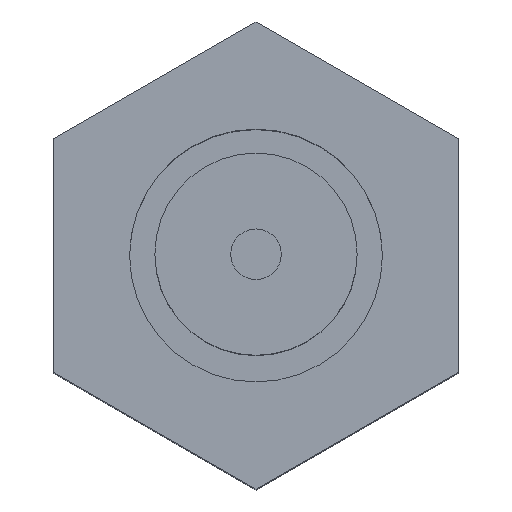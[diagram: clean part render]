
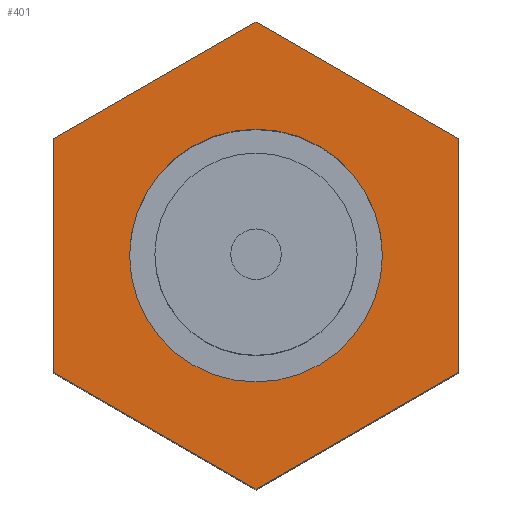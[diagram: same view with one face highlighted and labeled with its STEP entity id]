
A CAD part, top view. The second image highlights one B-rep face of the part: STEP entity #401.
In plain terms, the highlighted planar face has unit normal (0, 0, 1) as drawn and (-1, 0, 0) by its records, which use the part's own axes.
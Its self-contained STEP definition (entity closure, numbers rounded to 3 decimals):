
#291 = VERTEX_POINT ( 'NONE', #744 ) ;
#293 = VERTEX_POINT ( 'NONE', #748 ) ;
#294 = EDGE_CURVE ( 'NONE', #293, #291, #758, .T. ) ;
#385 = EDGE_CURVE ( 'NONE', #414, #412, #541, .T. ) ;
#386 = ORIENTED_EDGE ( 'NONE', *, *, #387, .F. ) ;
#387 = EDGE_CURVE ( 'NONE', #388, #414, #537, .T. ) ;
#388 = VERTEX_POINT ( 'NONE', #533 ) ;
#389 = ORIENTED_EDGE ( 'NONE', *, *, #390, .F. ) ;
#390 = EDGE_CURVE ( 'NONE', #406, #388, #532, .T. ) ;
#391 = EDGE_LOOP ( 'NONE', ( #392, #393 ) ) ;
#392 = ORIENTED_EDGE ( 'NONE', *, *, #294, .T. ) ;
#393 = ORIENTED_EDGE ( 'NONE', *, *, #394, .T. ) ;
#394 = EDGE_CURVE ( 'NONE', #291, #293, #528, .T. ) ;
#401 = ADVANCED_FACE ( 'NONE', ( #512, #511 ), #573, .T. ) ;
#402 = EDGE_LOOP ( 'NONE', ( #403, #407, #410, #413, #386, #389 ) ) ;
#403 = ORIENTED_EDGE ( 'NONE', *, *, #404, .F. ) ;
#404 = EDGE_CURVE ( 'NONE', #405, #406, #568, .T. ) ;
#405 = VERTEX_POINT ( 'NONE', #564 ) ;
#406 = VERTEX_POINT ( 'NONE', #563 ) ;
#407 = ORIENTED_EDGE ( 'NONE', *, *, #408, .F. ) ;
#408 = EDGE_CURVE ( 'NONE', #409, #405, #562, .T. ) ;
#409 = VERTEX_POINT ( 'NONE', #558 ) ;
#410 = ORIENTED_EDGE ( 'NONE', *, *, #411, .F. ) ;
#411 = EDGE_CURVE ( 'NONE', #412, #409, #557, .T. ) ;
#412 = VERTEX_POINT ( 'NONE', #553 ) ;
#413 = ORIENTED_EDGE ( 'NONE', *, *, #385, .F. ) ;
#414 = VERTEX_POINT ( 'NONE', #552 ) ;
#511 = FACE_BOUND ( 'NONE', #391, .T. ) ;
#512 = FACE_OUTER_BOUND ( 'NONE', #402, .T. ) ;
#524 = DIRECTION ( 'NONE',  ( 0., 0., -1. ) ) ;
#525 = DIRECTION ( 'NONE',  ( 1., 0., 0. ) ) ;
#526 = CARTESIAN_POINT ( 'NONE',  ( 15., 0., 0. ) ) ;
#527 = AXIS2_PLACEMENT_3D ( 'NONE', #526, #525, #524 ) ;
#528 = CIRCLE ( 'NONE', #527, 2.5 ) ;
#529 = DIRECTION ( 'NONE',  ( 0., -0.5, -0.866 ) ) ;
#530 = VECTOR ( 'NONE', #529, 1000. ) ;
#531 = CARTESIAN_POINT ( 'NONE',  ( 15., -2.309, 4. ) ) ;
#532 = LINE ( 'NONE', #531, #530 ) ;
#533 = CARTESIAN_POINT ( 'NONE',  ( 15., -4.619, 0. ) ) ;
#534 = DIRECTION ( 'NONE',  ( 0., 0.5, -0.866 ) ) ;
#535 = VECTOR ( 'NONE', #534, 1000. ) ;
#536 = CARTESIAN_POINT ( 'NONE',  ( 15., -4.619, 0. ) ) ;
#537 = LINE ( 'NONE', #536, #535 ) ;
#538 = DIRECTION ( 'NONE',  ( 0., 1., 0. ) ) ;
#539 = VECTOR ( 'NONE', #538, 1000. ) ;
#540 = CARTESIAN_POINT ( 'NONE',  ( 15., -2.309, -4. ) ) ;
#541 = LINE ( 'NONE', #540, #539 ) ;
#552 = CARTESIAN_POINT ( 'NONE',  ( 15., -2.309, -4. ) ) ;
#553 = CARTESIAN_POINT ( 'NONE',  ( 15., 2.309, -4. ) ) ;
#554 = DIRECTION ( 'NONE',  ( 0., 0.5, 0.866 ) ) ;
#555 = VECTOR ( 'NONE', #554, 1000. ) ;
#556 = CARTESIAN_POINT ( 'NONE',  ( 15., 2.309, -4. ) ) ;
#557 = LINE ( 'NONE', #556, #555 ) ;
#558 = CARTESIAN_POINT ( 'NONE',  ( 15., 4.619, 0. ) ) ;
#559 = DIRECTION ( 'NONE',  ( 0., -0.5, 0.866 ) ) ;
#560 = VECTOR ( 'NONE', #559, 1000. ) ;
#561 = CARTESIAN_POINT ( 'NONE',  ( 15., 4.619, 0. ) ) ;
#562 = LINE ( 'NONE', #561, #560 ) ;
#563 = CARTESIAN_POINT ( 'NONE',  ( 15., -2.309, 4. ) ) ;
#564 = CARTESIAN_POINT ( 'NONE',  ( 15., 2.309, 4. ) ) ;
#565 = DIRECTION ( 'NONE',  ( 0., -1., 0. ) ) ;
#566 = VECTOR ( 'NONE', #565, 1000. ) ;
#567 = CARTESIAN_POINT ( 'NONE',  ( 15., 2.309, 4. ) ) ;
#568 = LINE ( 'NONE', #567, #566 ) ;
#569 = DIRECTION ( 'NONE',  ( 0., 0., 1. ) ) ;
#570 = DIRECTION ( 'NONE',  ( -1., 0., 0. ) ) ;
#571 = CARTESIAN_POINT ( 'NONE',  ( 15., 6.928, 4. ) ) ;
#572 = AXIS2_PLACEMENT_3D ( 'NONE', #571, #570, #569 ) ;
#573 = PLANE ( 'NONE',  #572 ) ;
#744 = CARTESIAN_POINT ( 'NONE',  ( 15., 0., -2.5 ) ) ;
#747 = CARTESIAN_POINT ( 'NONE',  ( 15., 0., 0. ) ) ;
#748 = CARTESIAN_POINT ( 'NONE',  ( 15., 0., 2.5 ) ) ;
#755 = DIRECTION ( 'NONE',  ( 0., 0., -1. ) ) ;
#756 = DIRECTION ( 'NONE',  ( 1., 0., 0. ) ) ;
#757 = AXIS2_PLACEMENT_3D ( 'NONE', #747, #756, #755 ) ;
#758 = CIRCLE ( 'NONE', #757, 2.5 ) ;
